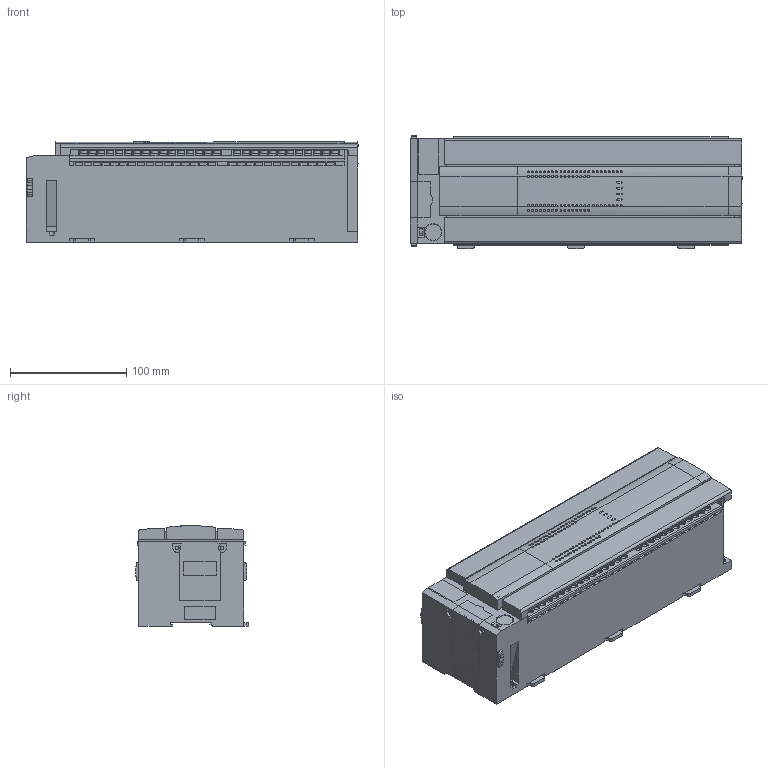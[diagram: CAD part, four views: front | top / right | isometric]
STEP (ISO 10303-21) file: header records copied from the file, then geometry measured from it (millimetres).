
FILE_DESCRIPTION(/* description */ (''),/* implementation_level */ '2;1');
FILE_NAME(/* name */ 'FX3U_80MT_ES.stp',/* time_stamp */ '2011-02-18T16:24:41+09:00',/* author */ (''),/* organization */ (''),/* preprocessor_version */ 'ST-DEVELOPER v11',/* originating_system */ 'UGS - NX 5.0',/* authorisation */ '');
FILE_SCHEMA (('CONFIG_CONTROL_DESIGN'));
Products named in the file (17): COVER_80MT_ES_1_id81_x_t; COVER_80MT_ES_1_id76_x_t; 80MT_ES_id71_x_t; COVER_80MT_ES_2_id66_x_t; CAP_80MT_ES_id61_x_t; COVER_80MT_ES_id56_x_t; COVER_80MT_ES_id51_x_t; COVER_80MT_ES_id46_x_t; COVER_80MT_ES_id41_x_t; COVER_80MT_ES_id36_x_t; HOOK_80MT_ES_1_id31_x_t; HOOK_80MT_ES_2_id26_x_t; SLIDER_80MT_ES_1_id21_x_t; SLIDER_80MT_ES_2_id16_x_t; SLIDER_80MT_ES_3_id11_x_t; COVER_80MT_ES_2_id6_x_t; FX3U_80MT_ES_x_t
Assembly tree (16 placements, depth 2):
  FX3U_80MT_ES_x_t
    COVER_80MT_ES_2_id6_x_t
    SLIDER_80MT_ES_3_id11_x_t
    SLIDER_80MT_ES_2_id16_x_t
    SLIDER_80MT_ES_1_id21_x_t
    HOOK_80MT_ES_2_id26_x_t
    HOOK_80MT_ES_1_id31_x_t
    COVER_80MT_ES_id36_x_t
    COVER_80MT_ES_id41_x_t
    COVER_80MT_ES_id46_x_t
    COVER_80MT_ES_id51_x_t
    COVER_80MT_ES_id56_x_t
    CAP_80MT_ES_id61_x_t
    COVER_80MT_ES_2_id66_x_t
    80MT_ES_id71_x_t
    COVER_80MT_ES_1_id76_x_t
    COVER_80MT_ES_1_id81_x_t
Bounding box: 285 x 97.19 x 86 mm (x, y, z)
Volume: 2003338.4 mm3; surface area: 211742.7 mm2
Topology: 16 solids, 16 shells, 2340 faces, 6823 edges, 4680 vertices
Faces by surface type: plane 1900, cylinder 440
Full cylindrical faces by diameter (mm): 1.65 x80, 3.2 x4, 4.5 x4, 6 x112, 6.2 x56, 14 x1, 14.8 x1
Entity records: 87131 total; most frequent: CARTESIAN_POINT 23892, ORIENTED_EDGE 13130, DIRECTION 11671, EDGE_CURVE 6565, LINE 4881, VECTOR 4881, VERTEX_POINT 4680, AXIS2_PLACEMENT_3D 3395
